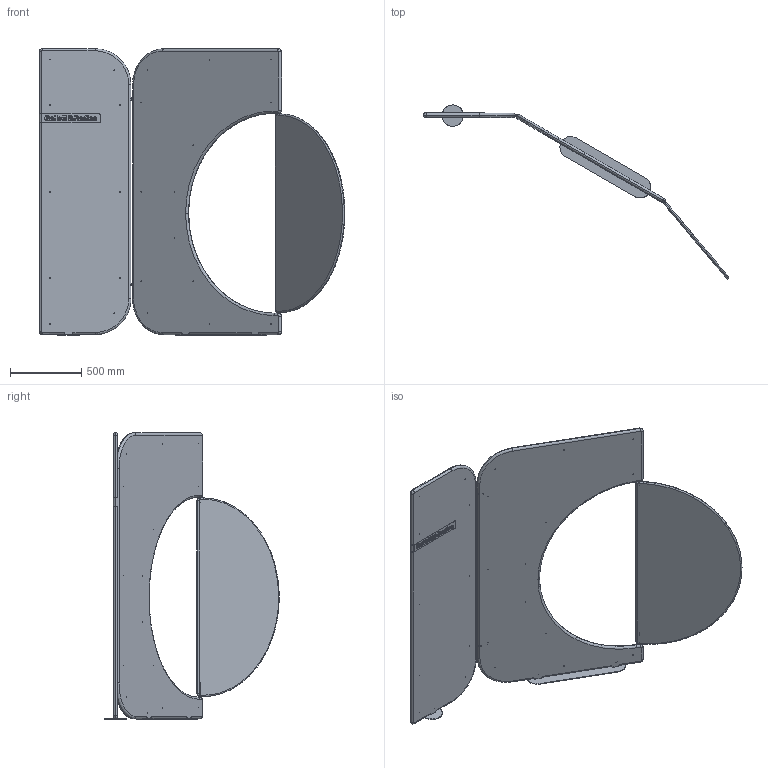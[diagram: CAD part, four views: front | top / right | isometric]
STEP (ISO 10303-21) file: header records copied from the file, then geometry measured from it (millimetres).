
FILE_DESCRIPTION(/* description */ (''),/* implementation_level */ '2;1');
FILE_NAME(/* name */ 'STECFCD',/* time_stamp */ '2025-05-26T14:57:42+02:00',/* author */ (''),/* organization */ (''),/* preprocessor_version */ 'ST-DEVELOPER v16.5',/* originating_system */ '',/* authorisation */ '');
FILE_SCHEMA (('AUTOMOTIVE_DESIGN'));
Length unit declared in the file: millimetre
Products named in the file (12): Document; perno 8 mm; LAMIERA LOGO; Blocco 03; vite cerniera; sistema cerniera - ASSIEME1; sistema cerniera_FE; sistema cerniera_MA; PIEDINO ASOLA; sistema cerniera - ASSIEME; pannelli_PANNELLO 3; PIEDINO ROTONDO
Assembly tree (15 placements, depth 3):
  Document
    perno 8 mm  x2
    LAMIERA LOGO
      Blocco 03
    vite cerniera  x2
    sistema cerniera - ASSIEME1
      sistema cerniera_FE
      sistema cerniera_MA
    PIEDINO ASOLA
    sistema cerniera - ASSIEME
      sistema cerniera_FE
      sistema cerniera_MA
    pannelli_PANNELLO 3
    PIEDINO ROTONDO
Bounding box: 2139.68 x 1219.99 x 2005 mm (x, y, z)
Volume: 74954629.5 mm3; surface area: 13585682.7 mm2
Topology: 14 solids, 349 shells, 997 faces, 3755 edges, 3144 vertices
Faces by surface type: plane 548, cylinder 291, bspline 158
Entity records: 83213 total; most frequent: CARTESIAN_POINT 59137, ORIENTED_EDGE 5069, EDGE_CURVE 3532, VERTEX_POINT 3012, B_SPLINE_CURVE_WITH_KNOTS 2852, EDGE_LOOP 1067, ADVANCED_FACE 920, FACE_OUTER_BOUND 920
